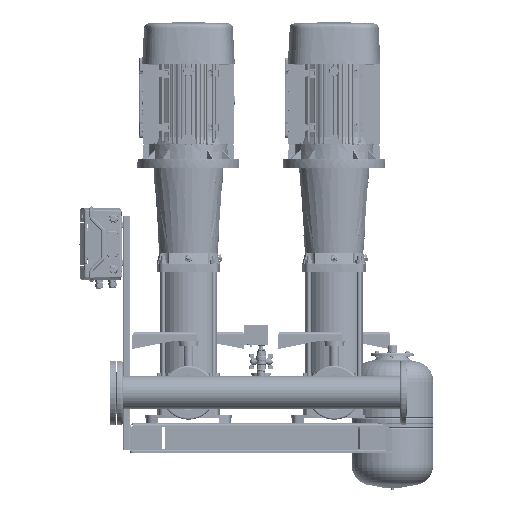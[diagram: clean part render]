
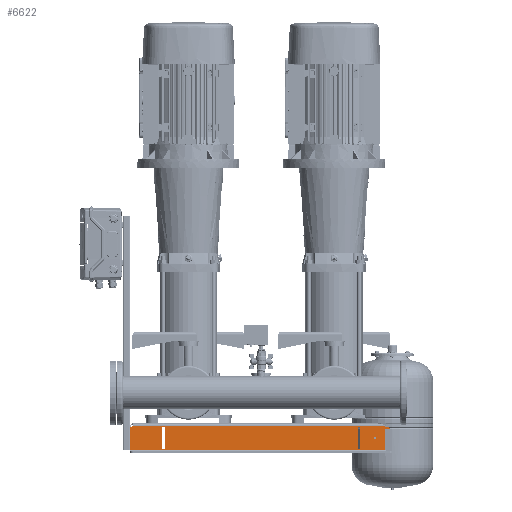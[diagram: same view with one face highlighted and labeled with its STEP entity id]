
A CAD part, front view. The second image highlights one B-rep face of the part: STEP entity #6622.
In plain terms, the highlighted planar face has unit normal (0, -1, 0) as drawn and (0, 0, 1) by its records, which use the part's own axes.
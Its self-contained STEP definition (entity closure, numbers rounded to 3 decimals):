
#5867=CARTESIAN_POINT('Vertex',(-9.,-9.,137.5)) ;
#5893=CARTESIAN_POINT('Vertex',(-891.,-9.,137.5)) ;
#5994=CARTESIAN_POINT('Line Origine',(-450.,-9.,137.5)) ;
#6015=CARTESIAN_POINT('Axis2P3D Location',(-3.877,-3.912,137.5)) ;
#6019=CARTESIAN_POINT('Vertex',(-8.685,-9.,137.5)) ;
#6021=CARTESIAN_POINT('Vertex',(-4.532,-10.882,137.5)) ;
#6055=CARTESIAN_POINT('Line Origine',(-8.842,-9.,137.5)) ;
#6088=CARTESIAN_POINT('Vertex',(-891.315,-9.,137.5)) ;
#6091=CARTESIAN_POINT('Line Origine',(-891.158,-9.,137.5)) ;
#6119=CARTESIAN_POINT('Vertex',(-895.468,-10.882,137.5)) ;
#6122=CARTESIAN_POINT('Axis2P3D Location',(-896.123,-3.912,137.5)) ;
#6150=CARTESIAN_POINT('Vertex',(-900.,-15.86,137.5)) ;
#6153=CARTESIAN_POINT('Axis2P3D Location',(-895.,-15.86,137.5)) ;
#6170=CARTESIAN_POINT('Line Origine',(-786.,-14.,137.5)) ;
#6174=CARTESIAN_POINT('Vertex',(-790.,-14.,137.5)) ;
#6176=CARTESIAN_POINT('Vertex',(-782.,-14.,137.5)) ;
#6210=CARTESIAN_POINT('Line Origine',(-782.,-51.5,137.5)) ;
#6214=CARTESIAN_POINT('Vertex',(-782.,-89.,137.5)) ;
#6241=CARTESIAN_POINT('Line Origine',(-786.,-89.,137.5)) ;
#6245=CARTESIAN_POINT('Vertex',(-790.,-89.,137.5)) ;
#6277=CARTESIAN_POINT('Line Origine',(-790.,-51.5,137.5)) ;
#6294=CARTESIAN_POINT('Line Origine',(-110.,-51.5,137.5)) ;
#6298=CARTESIAN_POINT('Vertex',(-110.,-14.,137.5)) ;
#6300=CARTESIAN_POINT('Vertex',(-110.,-89.,137.5)) ;
#6334=CARTESIAN_POINT('Line Origine',(-114.,-89.,137.5)) ;
#6338=CARTESIAN_POINT('Vertex',(-118.,-89.,137.5)) ;
#6376=CARTESIAN_POINT('Vertex',(-118.,-14.,137.5)) ;
#6379=CARTESIAN_POINT('Line Origine',(-118.,-51.5,137.5)) ;
#6401=CARTESIAN_POINT('Line Origine',(-114.,-14.,137.5)) ;
#6422=CARTESIAN_POINT('Vertex',(0.,-15.86,137.5)) ;
#6432=CARTESIAN_POINT('Axis2P3D Location',(-5.,-15.86,137.5)) ;
#6453=CARTESIAN_POINT('Vertex',(0.,-91.,137.5)) ;
#6463=CARTESIAN_POINT('Line Origine',(0.,-53.43,137.5)) ;
#6480=CARTESIAN_POINT('Axis2P3D Location',(-60.,-50.,137.5)) ;
#6484=CARTESIAN_POINT('Vertex',(-55.75,-50.,137.5)) ;
#6486=CARTESIAN_POINT('Vertex',(-64.25,-50.,137.5)) ;
#6520=CARTESIAN_POINT('Axis2P3D Location',(-60.,-50.,137.5)) ;
#6558=CARTESIAN_POINT('Line Origine',(-900.,-53.43,137.5)) ;
#6562=CARTESIAN_POINT('Vertex',(-900.,-91.,137.5)) ;
#6584=CARTESIAN_POINT('Axis2P3D Location',(-450.,0.,137.5)) ;
#6589=CARTESIAN_POINT('Line Origine',(-450.,-91.,137.5)) ;
#5996=VECTOR('Line Direction',#5995,1.) ;
#6057=VECTOR('Line Direction',#6056,1.) ;
#6093=VECTOR('Line Direction',#6092,1.) ;
#6172=VECTOR('Line Direction',#6171,1.) ;
#6212=VECTOR('Line Direction',#6211,1.) ;
#6243=VECTOR('Line Direction',#6242,1.) ;
#6279=VECTOR('Line Direction',#6278,1.) ;
#6296=VECTOR('Line Direction',#6295,1.) ;
#6336=VECTOR('Line Direction',#6335,1.) ;
#6381=VECTOR('Line Direction',#6380,1.) ;
#6403=VECTOR('Line Direction',#6402,1.) ;
#6465=VECTOR('Line Direction',#6464,1.) ;
#6560=VECTOR('Line Direction',#6559,1.) ;
#6591=VECTOR('Line Direction',#6590,1.) ;
#5995=DIRECTION('Vector Direction',(-1.,0.,0.)) ;
#6016=DIRECTION('Axis2P3D Direction',(0.,0.,1.)) ;
#6056=DIRECTION('Vector Direction',(-1.,0.,0.)) ;
#6092=DIRECTION('Vector Direction',(-1.,0.,0.)) ;
#6123=DIRECTION('Axis2P3D Direction',(0.,0.,1.)) ;
#6154=DIRECTION('Axis2P3D Direction',(0.,0.,1.)) ;
#6171=DIRECTION('Vector Direction',(1.,0.,0.)) ;
#6211=DIRECTION('Vector Direction',(0.,-1.,0.)) ;
#6242=DIRECTION('Vector Direction',(1.,0.,0.)) ;
#6278=DIRECTION('Vector Direction',(0.,-1.,0.)) ;
#6295=DIRECTION('Vector Direction',(0.,-1.,0.)) ;
#6335=DIRECTION('Vector Direction',(1.,0.,0.)) ;
#6380=DIRECTION('Vector Direction',(0.,-1.,0.)) ;
#6402=DIRECTION('Vector Direction',(1.,0.,0.)) ;
#6433=DIRECTION('Axis2P3D Direction',(0.,0.,1.)) ;
#6464=DIRECTION('Vector Direction',(0.,1.,0.)) ;
#6481=DIRECTION('Axis2P3D Direction',(0.,0.,1.)) ;
#6521=DIRECTION('Axis2P3D Direction',(0.,0.,1.)) ;
#6559=DIRECTION('Vector Direction',(0.,1.,0.)) ;
#6585=DIRECTION('Axis2P3D Direction',(0.,0.,1.)) ;
#6586=DIRECTION('Axis2P3D XDirection',(-1.,0.,0.)) ;
#6590=DIRECTION('Vector Direction',(1.,0.,0.)) ;
#6017=AXIS2_PLACEMENT_3D('Circle Axis2P3D',#6015,#6016,$) ;
#6124=AXIS2_PLACEMENT_3D('Circle Axis2P3D',#6122,#6123,$) ;
#6155=AXIS2_PLACEMENT_3D('Circle Axis2P3D',#6153,#6154,$) ;
#6434=AXIS2_PLACEMENT_3D('Circle Axis2P3D',#6432,#6433,$) ;
#6482=AXIS2_PLACEMENT_3D('Circle Axis2P3D',#6480,#6481,$) ;
#6522=AXIS2_PLACEMENT_3D('Circle Axis2P3D',#6520,#6521,$) ;
#6587=AXIS2_PLACEMENT_3D('Plane Axis2P3D',#6584,#6585,#6586) ;
#5997=LINE('Line',#5994,#5996) ;
#6058=LINE('Line',#6055,#6057) ;
#6094=LINE('Line',#6091,#6093) ;
#6173=LINE('Line',#6170,#6172) ;
#6213=LINE('Line',#6210,#6212) ;
#6244=LINE('Line',#6241,#6243) ;
#6280=LINE('Line',#6277,#6279) ;
#6297=LINE('Line',#6294,#6296) ;
#6337=LINE('Line',#6334,#6336) ;
#6382=LINE('Line',#6379,#6381) ;
#6404=LINE('Line',#6401,#6403) ;
#6466=LINE('Line',#6463,#6465) ;
#6561=LINE('Line',#6558,#6560) ;
#6592=LINE('Line',#6589,#6591) ;
#6018=CIRCLE('generated circle',#6017,7.) ;
#6125=CIRCLE('generated circle',#6124,7.) ;
#6156=CIRCLE('generated circle',#6155,5.) ;
#6435=CIRCLE('generated circle',#6434,5.) ;
#6483=CIRCLE('generated circle',#6482,4.25) ;
#6523=CIRCLE('generated circle',#6522,4.25) ;
#6588=PLANE('',#6587) ;
#6611=FACE_BOUND('',#6606,.T.) ;
#6617=FACE_BOUND('',#6612,.T.) ;
#6621=FACE_BOUND('',#6618,.T.) ;
#5998=EDGE_CURVE('',#5894,#5868,#5997,.F.) ;
#6023=EDGE_CURVE('',#6020,#6022,#6018,.T.) ;
#6059=EDGE_CURVE('',#6020,#5868,#6058,.T.) ;
#6095=EDGE_CURVE('',#5894,#6089,#6094,.T.) ;
#6126=EDGE_CURVE('',#6120,#6089,#6125,.T.) ;
#6157=EDGE_CURVE('',#6120,#6151,#6156,.T.) ;
#6178=EDGE_CURVE('',#6175,#6177,#6173,.T.) ;
#6216=EDGE_CURVE('',#6177,#6215,#6213,.T.) ;
#6247=EDGE_CURVE('',#6246,#6215,#6244,.T.) ;
#6281=EDGE_CURVE('',#6175,#6246,#6280,.T.) ;
#6302=EDGE_CURVE('',#6299,#6301,#6297,.T.) ;
#6340=EDGE_CURVE('',#6339,#6301,#6337,.T.) ;
#6383=EDGE_CURVE('',#6377,#6339,#6382,.T.) ;
#6405=EDGE_CURVE('',#6377,#6299,#6404,.T.) ;
#6436=EDGE_CURVE('',#6423,#6022,#6435,.T.) ;
#6467=EDGE_CURVE('',#6454,#6423,#6466,.T.) ;
#6488=EDGE_CURVE('',#6485,#6487,#6483,.T.) ;
#6524=EDGE_CURVE('',#6487,#6485,#6523,.T.) ;
#6564=EDGE_CURVE('',#6563,#6151,#6561,.T.) ;
#6593=EDGE_CURVE('',#6563,#6454,#6592,.T.) ;
#6595=ORIENTED_EDGE('',*,*,#6059,.T.) ;
#6596=ORIENTED_EDGE('',*,*,#5998,.F.) ;
#6597=ORIENTED_EDGE('',*,*,#6095,.T.) ;
#6598=ORIENTED_EDGE('',*,*,#6126,.F.) ;
#6599=ORIENTED_EDGE('',*,*,#6157,.T.) ;
#6600=ORIENTED_EDGE('',*,*,#6564,.F.) ;
#6601=ORIENTED_EDGE('',*,*,#6593,.T.) ;
#6602=ORIENTED_EDGE('',*,*,#6467,.T.) ;
#6603=ORIENTED_EDGE('',*,*,#6436,.T.) ;
#6604=ORIENTED_EDGE('',*,*,#6023,.F.) ;
#6607=ORIENTED_EDGE('',*,*,#6178,.T.) ;
#6608=ORIENTED_EDGE('',*,*,#6216,.T.) ;
#6609=ORIENTED_EDGE('',*,*,#6247,.F.) ;
#6610=ORIENTED_EDGE('',*,*,#6281,.F.) ;
#6613=ORIENTED_EDGE('',*,*,#6302,.T.) ;
#6614=ORIENTED_EDGE('',*,*,#6340,.F.) ;
#6615=ORIENTED_EDGE('',*,*,#6383,.F.) ;
#6616=ORIENTED_EDGE('',*,*,#6405,.T.) ;
#6619=ORIENTED_EDGE('',*,*,#6488,.F.) ;
#6620=ORIENTED_EDGE('',*,*,#6524,.F.) ;
#6594=EDGE_LOOP('',(#6595,#6596,#6597,#6598,#6599,#6600,#6601,#6602,#6603,#6604)) ;
#6606=EDGE_LOOP('',(#6607,#6608,#6609,#6610)) ;
#6612=EDGE_LOOP('',(#6613,#6614,#6615,#6616)) ;
#6618=EDGE_LOOP('',(#6619,#6620)) ;
#5868=VERTEX_POINT('',#5867) ;
#5894=VERTEX_POINT('',#5893) ;
#6020=VERTEX_POINT('',#6019) ;
#6022=VERTEX_POINT('',#6021) ;
#6089=VERTEX_POINT('',#6088) ;
#6120=VERTEX_POINT('',#6119) ;
#6151=VERTEX_POINT('',#6150) ;
#6175=VERTEX_POINT('',#6174) ;
#6177=VERTEX_POINT('',#6176) ;
#6215=VERTEX_POINT('',#6214) ;
#6246=VERTEX_POINT('',#6245) ;
#6299=VERTEX_POINT('',#6298) ;
#6301=VERTEX_POINT('',#6300) ;
#6339=VERTEX_POINT('',#6338) ;
#6377=VERTEX_POINT('',#6376) ;
#6423=VERTEX_POINT('',#6422) ;
#6454=VERTEX_POINT('',#6453) ;
#6485=VERTEX_POINT('',#6484) ;
#6487=VERTEX_POINT('',#6486) ;
#6563=VERTEX_POINT('',#6562) ;
#6622=ADVANCED_FACE('PartBody',(#6605,#6611,#6617,#6621),#6588,.T.) ;
#6605=FACE_OUTER_BOUND('',#6594,.T.) ;
